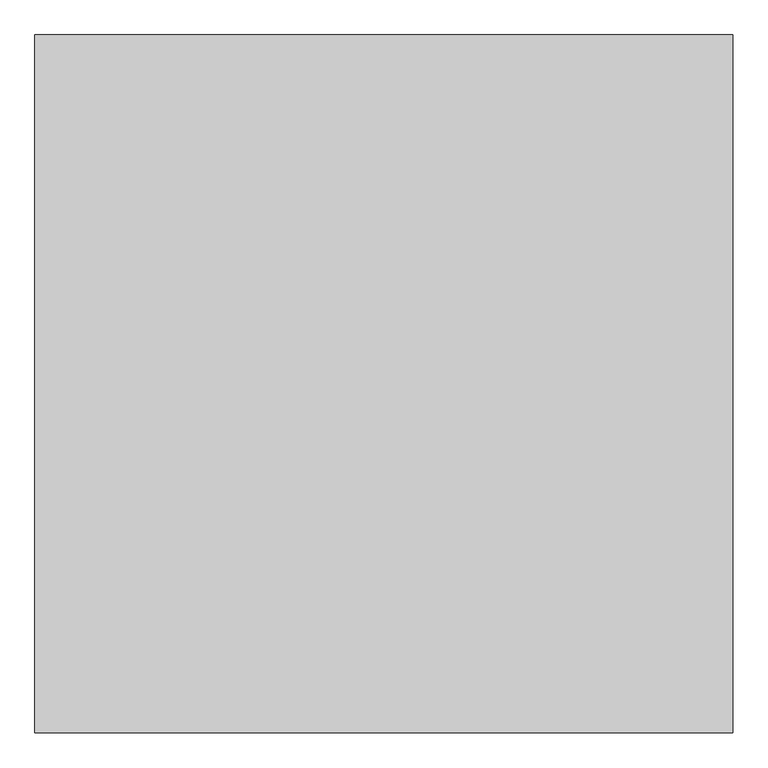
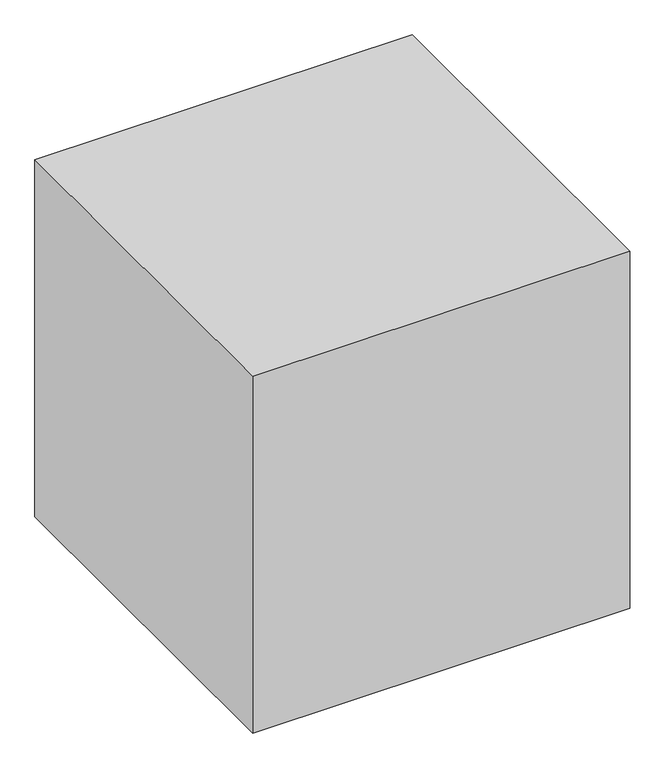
"""IFC4 building model written with IfcOpenShell, lengths in millimetres: proxy geometry, Кубик_Невырезаемая геометрия геометрия : Кубик_Невырезаемая геометрия геометрия."""

from ifc_helpers import new_model, si_unit, origin, origin_with_axes, place, context, project, spatial, polyline, outline, extrude, source, transform, mapped, element, save


def specialty_equipment_c6e90f60(model_context):
    return source(origin(), model_context, "Body", "SweptSolid", [
        extrude(outline(polyline([(800.0, 800.0), (800.0, -800.0), (-800.0, -800.0), (-800.0, 800.0), (800.0, 800.0)])), origin_with_axes(), (0.0, 0.0, 1.0), 1600.0),
    ])


if __name__ == "__main__":
    model = new_model("IFC4")
    model_context = context("Model", 3, world=origin())
    ifc_project = project(units=[si_unit("LENGTHUNIT", "METRE", prefix="MILLI")], contexts=[model_context])
    site = spatial("IfcSite", under=ifc_project)
    building = spatial("IfcBuilding", under=site)
    placement = place(None, origin())
    specialty_equipment_shape = specialty_equipment_c6e90f60(model_context)
    element("IfcBuildingElementProxy", 1, Name="Кубик_Невырезаемая геометрия геометрия : Кубик_Невырезаемая геометрия геометрия", ObjectType="Кубик_Невырезаемая геометрия геометрия : Кубик_Невырезаемая геометрия геометрия", at=placement, inside=building, context=model_context, shape_type="MappedRepresentation", body=[
        mapped(specialty_equipment_shape, transform((0.0, 0.0, 0.0), x_axis=(1.0, 0.0, 0.0), y_axis=(0.0, 1.0, 0.0), z_axis=(0.0, 0.0, 1.0))),
    ])
    save(model, "model.ifc")
